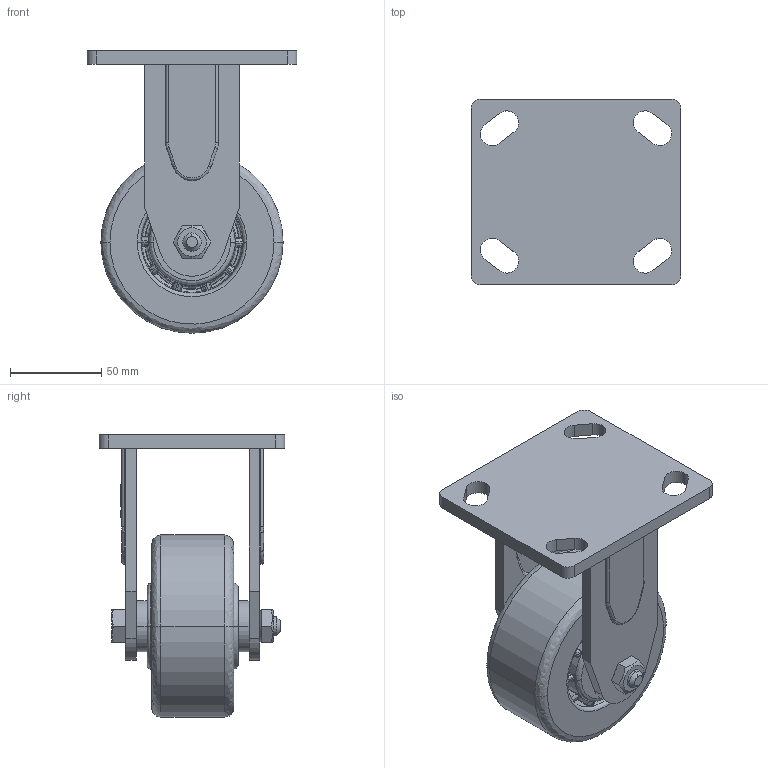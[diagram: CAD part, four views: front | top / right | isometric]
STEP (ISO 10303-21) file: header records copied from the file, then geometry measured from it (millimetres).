
FILE_DESCRIPTION (( 'STEP AP203' ), '1' );
FILE_NAME ('36A4寸定向（小底板）.STEP', '2026-03-13T01:20:43', ( 'MUSE' ), ( 'MUSE' ), 'SwSTEP 2.0', 'SolidWorks 2024', '' );
FILE_SCHEMA (( 'CONFIG_CONTROL_DESIGN' ));
Length unit declared in the file: millimetre
Products named in the file (1): 36A4寸定向（小底板）
Bounding box: 115 x 102 x 155 mm (x, y, z)
Volume: 476603.8 mm3; surface area: 100626.6 mm2
Topology: 1 solids, 3 shells, 936 faces, 2294 edges, 1394 vertices
Faces by surface type: bspline 474, plane 316, cylinder 106, cone 40
Entity records: 44242 total; most frequent: CARTESIAN_POINT 25889, ORIENTED_EDGE 4588, DIRECTION 2734, EDGE_CURVE 2294, VERTEX_POINT 1394, EDGE_LOOP 980, FACE_OUTER_BOUND 936, ADVANCED_FACE 936
